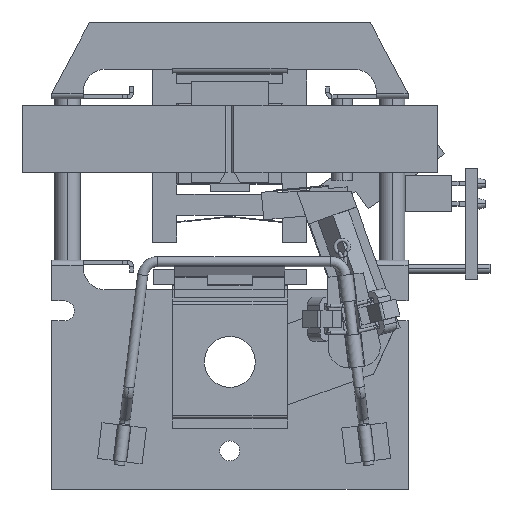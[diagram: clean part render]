
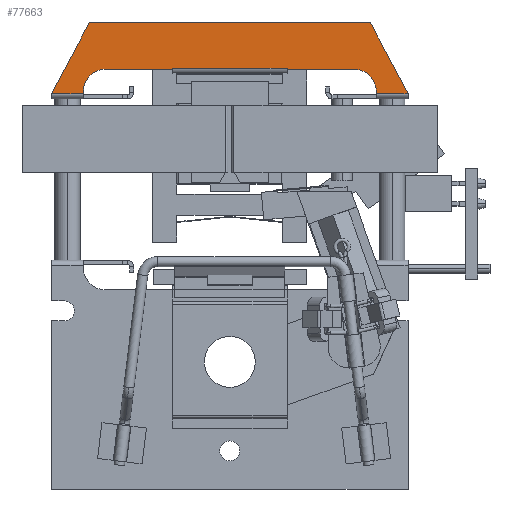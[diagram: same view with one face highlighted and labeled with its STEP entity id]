
A CAD part, top view. The second image highlights one B-rep face of the part: STEP entity #77663.
In plain terms, the highlighted planar face has unit normal (0, 0, 1).
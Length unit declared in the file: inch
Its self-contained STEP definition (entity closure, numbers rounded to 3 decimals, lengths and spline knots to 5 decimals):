
#71626 = CARTESIAN_POINT ( 'NONE',  ( 0.875, 1.316, 0.02 ) ) ;
#71629 = AXIS2_PLACEMENT_3D ( 'NONE', #71677, #71799, #71797 ) ;
#71647 = CARTESIAN_POINT ( 'NONE',  ( -0.281, 1.441, 0.02 ) ) ;
#71677 = CARTESIAN_POINT ( 'NONE',  ( -0.61, 1.327, 0.02 ) ) ;
#71689 = CIRCLE ( 'NONE', #71629, 0.109 ) ;
#71797 = DIRECTION ( 'NONE',  ( 1., 0., 0. ) ) ;
#71799 = DIRECTION ( 'NONE',  ( 0., 0., -1. ) ) ;
#71970 = CARTESIAN_POINT ( 'NONE',  ( -0.281, 1.327, 0.02 ) ) ;
#71971 = LINE ( 'NONE', #71970, #72025 ) ;
#71972 = CARTESIAN_POINT ( 'NONE',  ( 0.281, 1.436, 0.02 ) ) ;
#71973 = DIRECTION ( 'NONE',  ( 1., 0., 0. ) ) ;
#71974 = VECTOR ( 'NONE', #71973, 39.37008 ) ;
#71975 = CARTESIAN_POINT ( 'NONE',  ( -0.61, 1.436, 0.02 ) ) ;
#71977 = DIRECTION ( 'NONE',  ( 1., 0., 0. ) ) ;
#71978 = VECTOR ( 'NONE', #71977, 39.37008 ) ;
#71979 = CARTESIAN_POINT ( 'NONE',  ( 0.281, 1.441, 0.02 ) ) ;
#71980 = CARTESIAN_POINT ( 'NONE',  ( 0.81205, 1.43441, 0.02 ) ) ;
#71981 = LINE ( 'NONE', #71980, #72014 ) ;
#71982 = CARTESIAN_POINT ( 'NONE',  ( -0.281, 1.441, 0.02 ) ) ;
#71983 = LINE ( 'NONE', #71982, #71978 ) ;
#71985 = CARTESIAN_POINT ( 'NONE',  ( -0.719, 1.327, 0.02 ) ) ;
#71989 = LINE ( 'NONE', #71975, #71974 ) ;
#71991 = CARTESIAN_POINT ( 'NONE',  ( -0.61, 1.436, 0.02 ) ) ;
#71992 = CARTESIAN_POINT ( 'NONE',  ( -0.281, 1.436, 0.02 ) ) ;
#71999 = DIRECTION ( 'NONE',  ( 1., 0., 0. ) ) ;
#72000 = VECTOR ( 'NONE', #71999, 39.37008 ) ;
#72001 = CARTESIAN_POINT ( 'NONE',  ( -0.61, 1.436, 0.02 ) ) ;
#72002 = LINE ( 'NONE', #72001, #72000 ) ;
#72003 = AXIS2_PLACEMENT_3D ( 'NONE', #72010, #72046, #72045 ) ;
#72010 = CARTESIAN_POINT ( 'NONE',  ( 0.61, 1.327, 0.02 ) ) ;
#72013 = DIRECTION ( 'NONE',  ( 0.469, -0.883, 0. ) ) ;
#72014 = VECTOR ( 'NONE', #72013, 39.37008 ) ;
#72015 = CARTESIAN_POINT ( 'NONE',  ( 0.719, 1.327, 0.02 ) ) ;
#72016 = CARTESIAN_POINT ( 'NONE',  ( 0.69, 1.664, 0.02 ) ) ;
#72017 = DIRECTION ( 'NONE',  ( 0., -1., 0. ) ) ;
#72018 = VECTOR ( 'NONE', #72017, 39.37008 ) ;
#72022 = CARTESIAN_POINT ( 'NONE',  ( 0.281, 1.327, 0.02 ) ) ;
#72023 = LINE ( 'NONE', #72022, #72018 ) ;
#72024 = DIRECTION ( 'NONE',  ( 0., 1., 0. ) ) ;
#72025 = VECTOR ( 'NONE', #72024, 39.37008 ) ;
#72027 = LINE ( 'NONE', #72114, #72113 ) ;
#72039 = DIRECTION ( 'NONE',  ( -1., 0., 0. ) ) ;
#72040 = VECTOR ( 'NONE', #72039, 39.37008 ) ;
#72041 = CARTESIAN_POINT ( 'NONE',  ( 0.61, 1.316, 0.02 ) ) ;
#72045 = DIRECTION ( 'NONE',  ( -1., 0., 0. ) ) ;
#72046 = DIRECTION ( 'NONE',  ( 0., 0., -1. ) ) ;
#72049 = DIRECTION ( 'NONE',  ( 0., -1., 0. ) ) ;
#72050 = VECTOR ( 'NONE', #72049, 39.37008 ) ;
#72051 = CARTESIAN_POINT ( 'NONE',  ( 0.719, 1.316, 0.02 ) ) ;
#72052 = CIRCLE ( 'NONE', #72003, 0.109 ) ;
#72053 = CARTESIAN_POINT ( 'NONE',  ( 0.719, 1.302, 0.02 ) ) ;
#72054 = LINE ( 'NONE', #72053, #72050 ) ;
#72059 = CARTESIAN_POINT ( 'NONE',  ( 0.61, 1.436, 0.02 ) ) ;
#72060 = LINE ( 'NONE', #72041, #72040 ) ;
#72097 = DIRECTION ( 'NONE',  ( 1., 0., 0. ) ) ;
#72098 = VECTOR ( 'NONE', #72097, 39.37008 ) ;
#72099 = CARTESIAN_POINT ( 'NONE',  ( 0.61, 1.664, 0.02 ) ) ;
#72100 = LINE ( 'NONE', #72099, #72098 ) ;
#72102 = PLANE ( 'NONE',  #72136 ) ;
#72111 = CARTESIAN_POINT ( 'NONE',  ( -0.875, 1.316, 0.02 ) ) ;
#72112 = DIRECTION ( 'NONE',  ( -1., 0., 0. ) ) ;
#72113 = VECTOR ( 'NONE', #72112, 39.37008 ) ;
#72114 = CARTESIAN_POINT ( 'NONE',  ( 0.61, 1.316, 0.02 ) ) ;
#72117 = CARTESIAN_POINT ( 'NONE',  ( -0.69, 1.664, 0.02 ) ) ;
#72136 = AXIS2_PLACEMENT_3D ( 'NONE', #72164, #72163, #72162 ) ;
#72137 = FACE_OUTER_BOUND ( 'NONE', #77616, .T. ) ;
#72152 = DIRECTION ( 'NONE',  ( 0.469, 0.883, 0. ) ) ;
#72153 = VECTOR ( 'NONE', #72152, 39.37008 ) ;
#72154 = CARTESIAN_POINT ( 'NONE',  ( -0.54324, 1.94007, 0.02 ) ) ;
#72155 = LINE ( 'NONE', #72154, #72153 ) ;
#72162 = DIRECTION ( 'NONE',  ( -1., 0., 0. ) ) ;
#72163 = DIRECTION ( 'NONE',  ( 0., 0., 1. ) ) ;
#72164 = CARTESIAN_POINT ( 'NONE',  ( 0.61, 1.327, 0.02 ) ) ;
#72212 = LINE ( 'NONE', #72285, #72283 ) ;
#72236 = CARTESIAN_POINT ( 'NONE',  ( -0.719, 1.316, 0.02 ) ) ;
#72282 = DIRECTION ( 'NONE',  ( 0., 1., 0. ) ) ;
#72283 = VECTOR ( 'NONE', #72282, 39.37008 ) ;
#72285 = CARTESIAN_POINT ( 'NONE',  ( -0.719, 1.302, 0.02 ) ) ;
#77550 = VERTEX_POINT ( 'NONE', #71647 ) ;
#77554 = VERTEX_POINT ( 'NONE', #71626 ) ;
#77559 = EDGE_CURVE ( 'NONE', #77592, #77604, #71689, .T. ) ;
#77591 = VERTEX_POINT ( 'NONE', #71992 ) ;
#77592 = VERTEX_POINT ( 'NONE', #71985 ) ;
#77593 = ORIENTED_EDGE ( 'NONE', *, *, #77594, .T. ) ;
#77594 = EDGE_CURVE ( 'NONE', #77550, #77599, #71983, .T. ) ;
#77596 = ORIENTED_EDGE ( 'NONE', *, *, #77600, .T. ) ;
#77597 = ORIENTED_EDGE ( 'NONE', *, *, #77611, .T. ) ;
#77599 = VERTEX_POINT ( 'NONE', #71979 ) ;
#77600 = EDGE_CURVE ( 'NONE', #77604, #77591, #71989, .T. ) ;
#77602 = ORIENTED_EDGE ( 'NONE', *, *, #77635, .F. ) ;
#77604 = VERTEX_POINT ( 'NONE', #71991 ) ;
#77606 = ORIENTED_EDGE ( 'NONE', *, *, #77678, .T. ) ;
#77607 = ORIENTED_EDGE ( 'NONE', *, *, #77632, .T. ) ;
#77608 = EDGE_CURVE ( 'NONE', #77591, #77550, #71971, .T. ) ;
#77609 = ORIENTED_EDGE ( 'NONE', *, *, #77613, .F. ) ;
#77610 = VERTEX_POINT ( 'NONE', #71972 ) ;
#77611 = EDGE_CURVE ( 'NONE', #77599, #77610, #72023, .T. ) ;
#77612 = ORIENTED_EDGE ( 'NONE', *, *, #77624, .T. ) ;
#77613 = EDGE_CURVE ( 'NONE', #77615, #77554, #71981, .T. ) ;
#77615 = VERTEX_POINT ( 'NONE', #72016 ) ;
#77616 = EDGE_LOOP ( 'NONE', ( #77629, #77659, #77658, #77606, #77627, #77596, #77675, #77593, #77597, #77612, #77607, #77634, #77602, #77609 ) ) ;
#77617 = VERTEX_POINT ( 'NONE', #72015 ) ;
#77624 = EDGE_CURVE ( 'NONE', #77610, #77630, #72002, .T. ) ;
#77627 = ORIENTED_EDGE ( 'NONE', *, *, #77559, .T. ) ;
#77629 = ORIENTED_EDGE ( 'NONE', *, *, #77656, .F. ) ;
#77630 = VERTEX_POINT ( 'NONE', #72059 ) ;
#77631 = EDGE_CURVE ( 'NONE', #77617, #77633, #72054, .T. ) ;
#77632 = EDGE_CURVE ( 'NONE', #77630, #77617, #72052, .T. ) ;
#77633 = VERTEX_POINT ( 'NONE', #72051 ) ;
#77634 = ORIENTED_EDGE ( 'NONE', *, *, #77631, .T. ) ;
#77635 = EDGE_CURVE ( 'NONE', #77554, #77633, #72060, .T. ) ;
#77652 = EDGE_CURVE ( 'NONE', #77672, #77654, #72027, .T. ) ;
#77654 = VERTEX_POINT ( 'NONE', #72111 ) ;
#77655 = VERTEX_POINT ( 'NONE', #72117 ) ;
#77656 = EDGE_CURVE ( 'NONE', #77655, #77615, #72100, .T. ) ;
#77658 = ORIENTED_EDGE ( 'NONE', *, *, #77652, .F. ) ;
#77659 = ORIENTED_EDGE ( 'NONE', *, *, #77668, .F. ) ;
#77663 = ADVANCED_FACE ( 'NONE', ( #72137 ), #72102, .T. ) ;
#77668 = EDGE_CURVE ( 'NONE', #77654, #77655, #72155, .T. ) ;
#77672 = VERTEX_POINT ( 'NONE', #72236 ) ;
#77675 = ORIENTED_EDGE ( 'NONE', *, *, #77608, .T. ) ;
#77678 = EDGE_CURVE ( 'NONE', #77672, #77592, #72212, .T. ) ;
